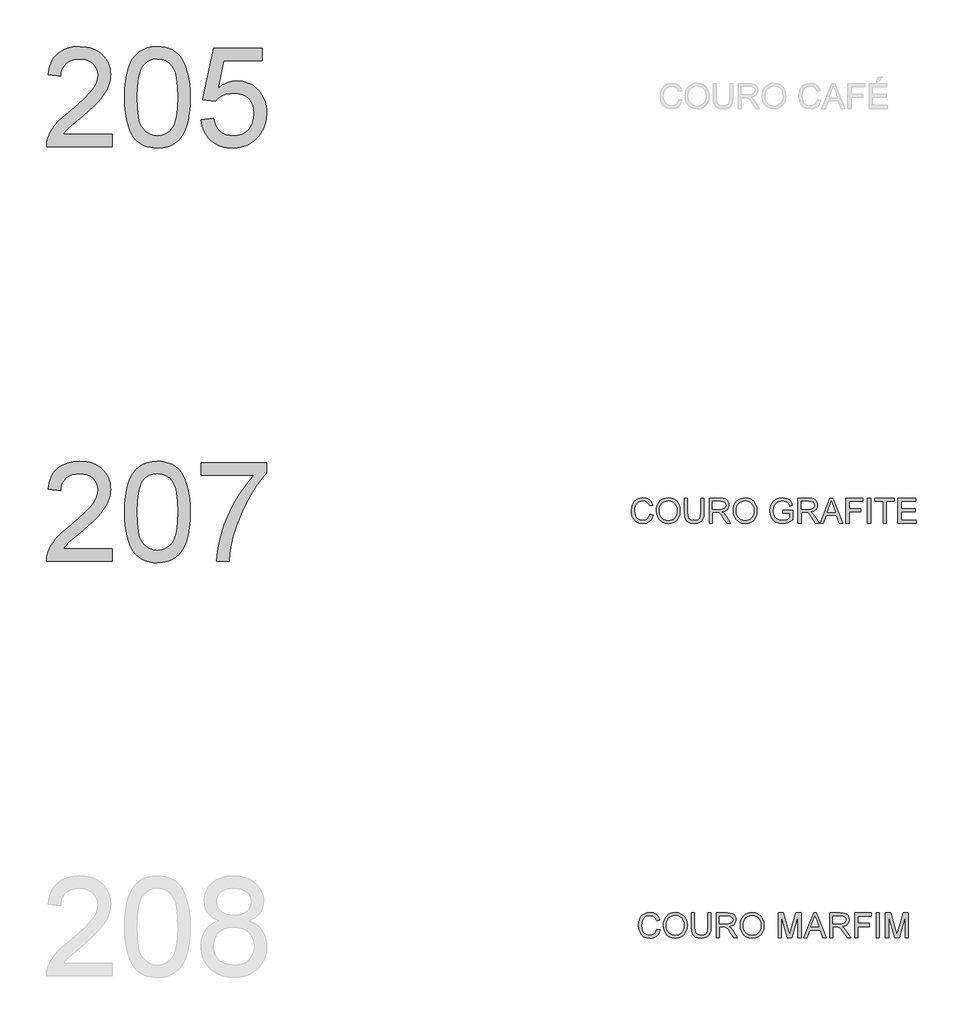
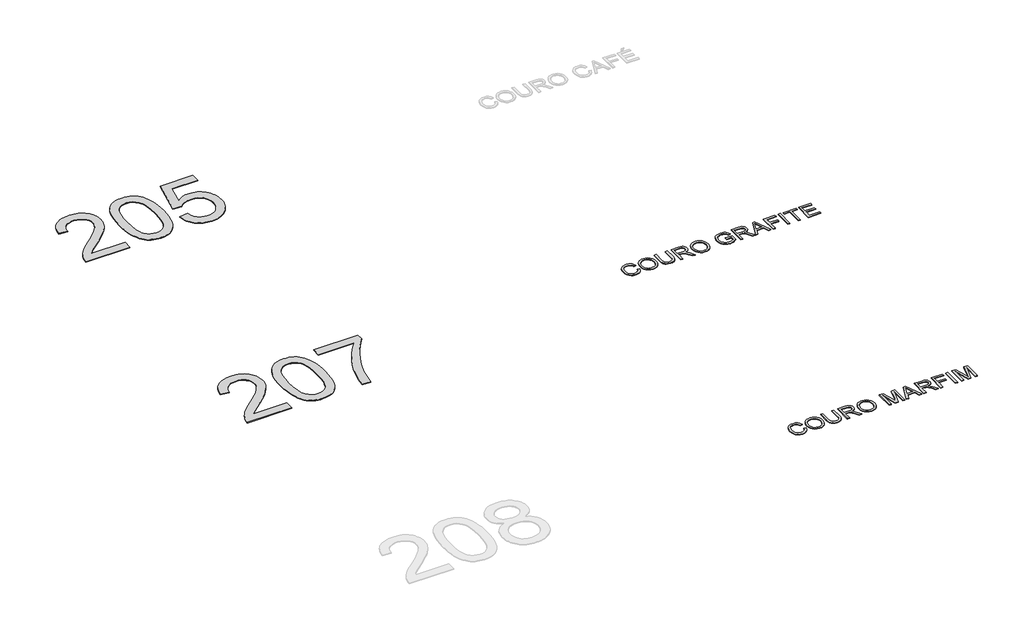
# One storey, part 3 of 35: 4 proxies.
"""IFC4 building model written with IfcOpenShell, lengths in millimetres."""

from ifc_helpers import new_model, si_unit, origin, origin_with_axes, place, context, project, spatial, polyline, outline, extrude, element, save

model = new_model("IFC4")

# Units and contexts
model_context = context("Model", 3, world=origin())
ifc_project = project(units=[si_unit("LENGTHUNIT", "METRE", prefix="MILLI")], contexts=[model_context])

# Site, building, storey
site = spatial("IfcSite", under=ifc_project)
building = spatial("IfcBuilding", under=site)
storey = spatial("IfcBuildingStorey", under=building, Name="Marelli - Linha YOU - Planta Baixa", Elevation=0.0)

# Proxies
placement = place(None, origin())
element("IfcBuildingElementProxy", 1, Name="1200mm Arial", ObjectType="1200mm Arial", at=placement, inside=storey, context=model_context, shape_type="SweptSolid", body=[
    extrude(outline(polyline([(-24408.8734949, -130338.133975), (-24408.8734949, -130488.8184403), (-25199.9669374, -130488.8184403), (-25196.6559994, -130435.7698566), (-25183.7801296, -130384.9285648), (-25167.3541985, -130344.029284), (-25146.6240481, -130303.7370085), (-25121.5896783, -130264.0517383), (-25092.2510892, -130224.9734733), (-25056.8424471, -130184.9755034), (-25013.5979186, -130142.5311182), (-24903.601202, -130050.303102), (-24814.169089, -129973.3605827), (-24740.9973602, -129905.8726307), (-24684.0860155, -129847.839246), (-24643.4350551, -129799.2604285), (-24614.9793827, -129755.7032003), (-24594.6539025, -129712.7345832), (-24582.4586144, -129670.3545774), (-24578.3935183, -129628.5631827), (-24582.2286881, -129589.2457945), (-24593.7341975, -129553.1105855), (-24612.9100465, -129520.1575558), (-24639.7562351, -129490.3867054), (-24672.7828412, -129465.7294146), (-24710.4999428, -129448.1170641), (-24752.9075398, -129437.5496538), (-24800.0056322, -129434.0271837), (-24849.6237163, -129437.4668804), (-24893.999482, -129447.7859703), (-24933.1329292, -129464.9844536), (-24967.024058, -129489.0623302), (-24994.4404637, -129519.2102597), (-25014.1497416, -129554.6189017), (-25026.1518917, -129595.2882563), (-25030.446914, -129641.2183234), (-25181.1313792, -129622.3827652), (-25168.1727359, -129544.5941173), (-25157.7133909, -129509.3832119), (-25144.6006971, -129476.6279187), (-25128.8346543, -129446.3282379), (-25110.4152627, -129418.4841694), (-25089.3425221, -129393.0957132), (-25065.6164327, -129370.1628693), (-25039.4945118, -129349.8143965), (-25011.2342768, -129332.1790533), (-24980.8357277, -129317.2568399), (-24948.2988645, -129305.0477562), (-24876.8101957, -129288.7689779), (-24796.7682706, -129283.3427185), (-24716.0089757, -129289.3759832), (-24678.9609595, -129296.9175641), (-24644.1340308, -129307.4757774), (-24611.5281898, -129321.050623), (-24581.1434362, -129337.642101), (-24552.9797702, -129357.2502113), (-24527.0371918, -129379.874954), (-24503.7571593, -129404.7345798), (-24483.5811311, -129431.0473395), (-24466.5091073, -129458.8132331), (-24452.5410878, -129488.0322606), (-24441.6770726, -129518.7044219), (-24433.9170618, -129550.8297172), (-24429.2610552, -129584.4081463), (-24427.7090531, -129619.4397093), (-24429.3829162, -129655.6301005), (-24434.4045054, -129691.5077921), (-24442.7738208, -129727.072784), (-24454.4908623, -129762.3250762), (-24470.098256, -129797.880871), (-24490.1386277, -129834.3563708), (-24543.5183052, -129910.0664855), (-24580.3524899, -129952.0510182), (-24628.6094106, -130000.4550917), (-24759.3914599, -130116.5218611), (-24932.7374561, -130261.4673672), (-24970.334996, -130299.6903065), (-25000.7220488, -130338.133975), (-24408.8734949, -130338.133975)])), origin_with_axes(), (0.0, 0.0, 1.0), 10.0),
    extrude(outline(polyline([(-24258.1890297, -129895.792664), (-24255.4207177, -129794.4319773), (-24247.1157816, -129702.8385576), (-24233.2742216, -129621.0124048), (-24213.8960375, -129548.953519), (-24189.0640028, -129486.073289), (-24158.860891, -129431.7831035), (-24123.2867021, -129386.0829627), (-24082.341436, -129348.9728664), (-24035.8871371, -129320.2596767), (-23983.7858495, -129299.7502555), (-23926.0375733, -129287.4446027), (-23862.6423085, -129283.3427185), (-23815.0015901, -129285.7707396), (-23769.7888929, -129293.0548031), (-23727.0042169, -129305.194909), (-23686.647562, -129322.1910572), (-23649.6938156, -129343.7581391), (-23617.1178649, -129369.6110463), (-23588.91971, -129399.7497788), (-23565.0993508, -129434.1743365), (-23544.4611709, -129472.7467637), (-23525.8095537, -129515.3291046), (-23494.4660077, -129612.5235278), (-23482.4914488, -129669.6831928), (-23473.9381924, -129735.9479371), (-23468.8062386, -129811.3177609), (-23467.0955873, -129895.792664), (-23469.8363081, -129996.5095573), (-23478.0584707, -130087.6431245), (-23491.7620751, -130169.1933658), (-23510.9471211, -130241.1602811), (-23535.5860177, -130304.0681023), (-23565.6511738, -130358.4410612), (-23601.1425893, -130404.2791578), (-23642.0602642, -130441.5823921), (-23688.5697454, -130470.4887199), (-23740.8365799, -130491.1360968), (-23798.8607676, -130503.524523), (-23862.6423085, -130507.6539984), (-23905.3166199, -130505.8605737), (-23945.6364866, -130500.4802995), (-23983.6019085, -130491.5131759), (-24019.2128856, -130478.9592028), (-24052.469418, -130462.8183803), (-24083.3715056, -130443.0907083), (-24111.9191484, -130419.7761868), (-24138.1123465, -130392.8748159), (-24166.2553191, -130350.2786794), (-24190.6458954, -130302.0999336), (-24211.2840753, -130248.3385785), (-24228.1698589, -130188.9946142), (-24241.3032461, -130124.0680406), (-24250.684237, -130053.5588577), (-24256.3128315, -129977.4670655), (-24258.1890297, -129895.792664)]), holes=[polyline([(-24107.5045645, -129895.4983584), (-24103.0899805, -130026.4919399), (-24089.8462287, -130132.5247279), (-24079.9134148, -130176.1808245), (-24067.773309, -130213.5967226), (-24053.4259112, -130244.7724225), (-24036.8712214, -130269.7079239), (-23999.4944107, -130307.884878), (-23957.9973216, -130335.1541309), (-23912.3799542, -130351.5156826), (-23862.6423085, -130356.9695332), (-23812.9046627, -130351.4972885), (-23767.2872953, -130335.0805545), (-23725.7902063, -130307.7193311), (-23688.4133956, -130269.4136183), (-23671.8587058, -130244.418336), (-23657.511308, -130213.2104465), (-23645.3712021, -130175.7899498), (-23635.4383883, -130132.1568459), (-23622.1946364, -130026.2528166), (-23617.7800525, -129895.4983584), (-23622.0474836, -129767.9720648), (-23634.8497771, -129663.8062779), (-23644.4514972, -129620.4835744), (-23656.1869328, -129583.0009976), (-23670.056084, -129551.3585475), (-23686.0589508, -129525.5562241), (-23722.8103621, -129485.5122689), (-23764.7856978, -129456.9094438), (-23811.9849578, -129439.7477487), (-23864.4081421, -129434.0271837), (-23913.8882704, -129439.067167), (-23958.7330856, -129454.187117), (-23998.9425877, -129479.3870337), (-24034.5167766, -129514.666917), (-24051.6232894, -129543.2145599), (-24066.4489338, -129577.2068562), (-24078.9937099, -129616.6438061), (-24089.2576175, -129661.5254095), (-24102.9428277, -129767.6225769), (-24107.5045645, -129895.4983584)])]), origin_with_axes(), (0.0, 0.0, 1.0), 10.0),
    extrude(outline(polyline([(-23335.2466802, -130168.6139517), (-23184.562215, -130149.7783935), (-23173.3050259, -130198.2192552), (-23156.8974889, -130240.2405761), (-23135.339604, -130275.8423562), (-23108.6313712, -130305.0245955), (-23076.8279727, -130327.7505057), (-23039.9845909, -130343.9832988), (-22998.1012257, -130353.7229746), (-22951.1778772, -130356.9695332), (-22893.788286, -130352.4537817), (-22843.1677235, -130338.9065272), (-22799.3161896, -130316.3277698), (-22762.2336845, -130284.7175093), (-22732.7479426, -130245.6392444), (-22711.6866984, -130200.6564734), (-22699.0499518, -130149.7691965), (-22694.837703, -130092.9774135), (-22698.7832374, -130039.3034304), (-22710.6198406, -129991.5891356), (-22730.3475126, -129949.8345291), (-22757.9662534, -129914.039611), (-22793.5680335, -129885.3264213), (-22837.2448233, -129864.817), (-22888.996623, -129852.5113473), (-22948.8234325, -129848.4094631), (-22987.1107511, -129850.0465379), (-23021.9215849, -129854.9577626), (-23053.2559339, -129863.143137), (-23081.1137979, -129874.6026611), (-23128.3866343, -129904.6954083), (-23165.7266568, -129942.5872538), (-23316.4111221, -129923.7516957), (-23184.562215, -129302.1782766), (-22600.6599122, -129302.1782766), (-22600.6599122, -129452.8627418), (-23062.7196982, -129452.8627418), (-23127.1726237, -129784.8394543), (-23073.9952813, -129746.7268796), (-23019.5303519, -129719.503612), (-22963.7778356, -129703.1696514), (-22906.7377322, -129697.7249978), (-22869.2988414, -129699.4126565), (-22833.3544712, -129704.4756324), (-22798.9046216, -129712.9139257), (-22765.9492927, -129724.7275363), (-22734.4884843, -129739.9164642), (-22704.5221965, -129758.4807093), (-22676.0504294, -129780.4202718), (-22649.0731828, -129805.7351516), (-22624.4825707, -129833.7033803), (-22603.1707069, -129863.6029895), (-22585.1375913, -129895.4339791), (-22570.383224, -129929.1963492), (-22558.907605, -129964.8900998), (-22550.7107343, -130002.5152308), (-22545.7926119, -130042.0717424), (-22544.1532378, -130083.5596344), (-22550.0577438, -130161.6241938), (-22557.4383763, -130198.6147284), (-22567.7712619, -130234.2440996), (-22581.0564004, -130268.5123075), (-22597.293792, -130301.4193519), (-22616.4834366, -130332.965233), (-22638.6253341, -130363.1499507), (-22668.6261108, -130397.0180869), (-22701.2388497, -130426.3704716), (-22736.4635508, -130451.2071048), (-22774.300214, -130471.5279865), (-22814.7488393, -130487.3331167), (-22857.8094269, -130498.6224954), (-22903.4819766, -130505.3961227), (-22951.7664884, -130507.6539984), (-23029.5275452, -130501.8506599), (-23065.5868785, -130494.5964869), (-23099.7654151, -130484.4406445), (-23132.063155, -130471.383133), (-23162.4800982, -130455.4239522), (-23191.0162447, -130436.5631021), (-23217.6715945, -130414.8005828), (-23242.0092878, -130390.6422321), (-23263.5924646, -130364.5938875), (-23282.421125, -130336.6555493), (-23298.4952689, -130306.8272173), (-23311.8148964, -130275.1088915), (-23322.3800074, -130241.500572), (-23335.2466802, -130168.6139517)])), origin_with_axes(), (0.0, 0.0, 1.0), 10.0),
])
element("IfcBuildingElementProxy", 2, Name="1200mm Arial", ObjectType="1200mm Arial", at=placement, inside=storey, context=model_context, shape_type="SweptSolid", body=[
    extrude(outline(polyline([(-24408.8734949, -135338.133975), (-24408.8734949, -135488.8184403), (-25199.9669374, -135488.8184403), (-25196.6559994, -135435.7698566), (-25183.7801296, -135384.9285648), (-25167.3541985, -135344.029284), (-25146.6240481, -135303.7370085), (-25121.5896783, -135264.0517383), (-25092.2510892, -135224.9734733), (-25056.8424471, -135184.9755034), (-25013.5979186, -135142.5311182), (-24903.601202, -135050.303102), (-24814.169089, -134973.3605827), (-24740.9973602, -134905.8726307), (-24684.0860155, -134847.839246), (-24643.4350551, -134799.2604285), (-24614.9793827, -134755.7032003), (-24594.6539025, -134712.7345832), (-24582.4586144, -134670.3545774), (-24578.3935183, -134628.5631827), (-24582.2286881, -134589.2457945), (-24593.7341975, -134553.1105855), (-24612.9100465, -134520.1575558), (-24639.7562351, -134490.3867054), (-24672.7828412, -134465.7294146), (-24710.4999428, -134448.1170641), (-24752.9075398, -134437.5496538), (-24800.0056322, -134434.0271837), (-24849.6237163, -134437.4668804), (-24893.999482, -134447.7859703), (-24933.1329292, -134464.9844536), (-24967.024058, -134489.0623302), (-24994.4404637, -134519.2102597), (-25014.1497416, -134554.6189017), (-25026.1518917, -134595.2882563), (-25030.446914, -134641.2183234), (-25181.1313792, -134622.3827652), (-25168.1727359, -134544.5941173), (-25157.7133909, -134509.3832119), (-25144.6006971, -134476.6279187), (-25128.8346543, -134446.3282379), (-25110.4152627, -134418.4841694), (-25089.3425221, -134393.0957132), (-25065.6164327, -134370.1628693), (-25039.4945118, -134349.8143965), (-25011.2342768, -134332.1790533), (-24980.8357277, -134317.2568399), (-24948.2988645, -134305.0477562), (-24876.8101957, -134288.7689779), (-24796.7682706, -134283.3427185), (-24716.0089757, -134289.3759832), (-24678.9609595, -134296.9175641), (-24644.1340308, -134307.4757774), (-24611.5281898, -134321.050623), (-24581.1434362, -134337.642101), (-24552.9797702, -134357.2502113), (-24527.0371918, -134379.874954), (-24503.7571593, -134404.7345798), (-24483.5811311, -134431.0473395), (-24466.5091073, -134458.8132331), (-24452.5410878, -134488.0322606), (-24441.6770726, -134518.7044219), (-24433.9170618, -134550.8297172), (-24429.2610552, -134584.4081463), (-24427.7090531, -134619.4397093), (-24429.3829162, -134655.6301005), (-24434.4045054, -134691.5077921), (-24442.7738208, -134727.072784), (-24454.4908623, -134762.3250762), (-24470.098256, -134797.880871), (-24490.1386277, -134834.3563708), (-24543.5183052, -134910.0664855), (-24580.3524899, -134952.0510182), (-24628.6094106, -135000.4550917), (-24759.3914599, -135116.5218611), (-24932.7374561, -135261.4673672), (-24970.334996, -135299.6903065), (-25000.7220488, -135338.133975), (-24408.8734949, -135338.133975)])), origin_with_axes(), (0.0, 0.0, 1.0), 10.0),
    extrude(outline(polyline([(-24258.1890297, -134895.792664), (-24255.4207177, -134794.4319773), (-24247.1157816, -134702.8385576), (-24233.2742216, -134621.0124048), (-24213.8960375, -134548.953519), (-24189.0640028, -134486.073289), (-24158.860891, -134431.7831035), (-24123.2867021, -134386.0829627), (-24082.341436, -134348.9728664), (-24035.8871371, -134320.2596767), (-23983.7858495, -134299.7502555), (-23926.0375733, -134287.4446027), (-23862.6423085, -134283.3427185), (-23815.0015901, -134285.7707396), (-23769.7888929, -134293.0548031), (-23727.0042169, -134305.194909), (-23686.647562, -134322.1910572), (-23649.6938156, -134343.7581391), (-23617.1178649, -134369.6110463), (-23588.91971, -134399.7497788), (-23565.0993508, -134434.1743365), (-23544.4611709, -134472.7467637), (-23525.8095537, -134515.3291046), (-23494.4660077, -134612.5235278), (-23482.4914488, -134669.6831928), (-23473.9381924, -134735.9479371), (-23468.8062386, -134811.3177609), (-23467.0955873, -134895.792664), (-23469.8363081, -134996.5095573), (-23478.0584707, -135087.6431245), (-23491.7620751, -135169.1933658), (-23510.9471211, -135241.1602811), (-23535.5860177, -135304.0681023), (-23565.6511738, -135358.4410612), (-23601.1425893, -135404.2791578), (-23642.0602642, -135441.5823921), (-23688.5697454, -135470.4887199), (-23740.8365799, -135491.1360968), (-23798.8607676, -135503.524523), (-23862.6423085, -135507.6539984), (-23905.3166199, -135505.8605737), (-23945.6364866, -135500.4802995), (-23983.6019085, -135491.5131759), (-24019.2128856, -135478.9592028), (-24052.469418, -135462.8183803), (-24083.3715056, -135443.0907083), (-24111.9191484, -135419.7761868), (-24138.1123465, -135392.8748159), (-24166.2553191, -135350.2786794), (-24190.6458954, -135302.0999336), (-24211.2840753, -135248.3385785), (-24228.1698589, -135188.9946142), (-24241.3032461, -135124.0680406), (-24250.684237, -135053.5588577), (-24256.3128315, -134977.4670655), (-24258.1890297, -134895.792664)]), holes=[polyline([(-24107.5045645, -134895.4983584), (-24103.0899805, -135026.4919399), (-24089.8462287, -135132.5247279), (-24079.9134148, -135176.1808245), (-24067.773309, -135213.5967226), (-24053.4259112, -135244.7724225), (-24036.8712214, -135269.7079239), (-23999.4944107, -135307.884878), (-23957.9973216, -135335.1541309), (-23912.3799542, -135351.5156826), (-23862.6423085, -135356.9695332), (-23812.9046627, -135351.4972885), (-23767.2872953, -135335.0805545), (-23725.7902063, -135307.7193311), (-23688.4133956, -135269.4136183), (-23671.8587058, -135244.418336), (-23657.511308, -135213.2104465), (-23645.3712021, -135175.7899498), (-23635.4383883, -135132.1568459), (-23622.1946364, -135026.2528166), (-23617.7800525, -134895.4983584), (-23622.0474836, -134767.9720648), (-23634.8497771, -134663.8062779), (-23644.4514972, -134620.4835744), (-23656.1869328, -134583.0009976), (-23670.056084, -134551.3585475), (-23686.0589508, -134525.5562241), (-23722.8103621, -134485.5122689), (-23764.7856978, -134456.9094438), (-23811.9849578, -134439.7477487), (-23864.4081421, -134434.0271837), (-23913.8882704, -134439.067167), (-23958.7330856, -134454.187117), (-23998.9425877, -134479.3870337), (-24034.5167766, -134514.666917), (-24051.6232894, -134543.2145599), (-24066.4489338, -134577.2068562), (-24078.9937099, -134616.6438061), (-24089.2576175, -134661.5254095), (-24102.9428277, -134767.6225769), (-24107.5045645, -134895.4983584)])]), origin_with_axes(), (0.0, 0.0, 1.0), 10.0),
    extrude(outline(polyline([(-23335.2466802, -134452.8627418), (-23335.2466802, -134302.1782766), (-22544.1532378, -134302.1782766), (-22544.1532378, -134424.0207934), (-22600.6691093, -134490.5246611), (-22656.9090693, -134566.7222194), (-22712.8731178, -134652.6134682), (-22768.5612548, -134748.1984076), (-22820.956848, -134849.3383651), (-22867.0432649, -134951.8946683), (-22906.8205057, -135055.8673172), (-22940.2885702, -135161.2563118), (-22960.2277743, -135237.7941609), (-22976.1938529, -135317.9004653), (-22988.186806, -135401.5752251), (-22996.2066335, -135488.8184403), (-23146.8910987, -135488.8184403), (-23142.154618, -135414.8189769), (-23130.5939263, -135333.4986619), (-23112.2090236, -135244.8574952), (-23086.9999099, -135148.8954767), (-23055.2608907, -135050.1651463), (-23017.2862718, -134953.2190435), (-22973.076053, -134858.0571684), (-22922.6302344, -134764.679521), (-22868.2204873, -134675.8268221), (-22812.1184831, -134594.2397926), (-22754.3242216, -134519.9184325), (-22694.837703, -134452.8627418), (-23335.2466802, -134452.8627418)])), origin_with_axes(), (0.0, 0.0, 1.0), 10.0),
])
element("IfcBuildingElementProxy", 3, Name="300mm Arial", ObjectType="300mm Arial", at=placement, inside=storey, context=model_context, shape_type="SweptSolid", body=[
    extrude(outline(polyline([(-17918.9303009, -134923.4390831), (-17881.2591846, -134933.1511677), (-17888.7133935, -134956.5783531), (-17898.6416089, -134977.0486868), (-17911.0438306, -134994.5621691), (-17925.9200588, -135009.1187998), (-17942.9346011, -135020.5622291), (-17961.7517651, -135028.7361071), (-17982.371551, -135033.640434), (-18004.7939586, -135035.2752096), (-18048.4891425, -135030.3271968), (-18083.1896117, -135015.4831583), (-18109.78748, -134991.2581289), (-18129.1748611, -134958.1671434), (-18141.0114643, -134919.2636224), (-18144.9569987, -134877.6009865), (-18140.4964295, -134833.6574822), (-18127.114722, -134795.7104543), (-18105.5108518, -134764.9647166), (-18076.3837948, -134742.6250824), (-18041.8396755, -134729.0226457), (-18003.9846182, -134724.4885001), (-17962.6806672, -134730.3562179), (-17944.711931, -134737.6908652), (-17928.532021, -134747.9593714), (-17914.4076516, -134760.8904235), (-17902.6055374, -134776.2127086), (-17885.9680741, -134814.0309777), (-17923.6391904, -134823.0072984), (-17936.6990013, -134795.5357104), (-17954.541278, -134776.6909552), (-17977.3867499, -134765.7924511), (-18005.4561462, -134762.1596164), (-18037.8113676, -134766.1879242), (-18064.3908418, -134778.2728478), (-18084.5599722, -134797.1451941), (-18097.6841623, -134821.5357704), (-18104.8854524, -134849.1085259), (-18107.2858824, -134877.5274101), (-18104.443994, -134912.3290468), (-18095.9183288, -134942.421794), (-18081.38699, -134966.6560205), (-18060.5280808, -134983.8820949), (-18035.5213022, -134994.1735937), (-18008.5463549, -134997.6040933), (-17977.1016414, -134992.931992), (-17950.8992463, -134978.9156879), (-17931.116392, -134955.7023341), (-17918.9303009, -134923.4390831)])), origin_with_axes(), (0.0, 0.0, 1.0), 10.0),
    extrude(outline(polyline([(-17843.5880683, -134883.8549804), (-17841.0772737, -134848.5061192), (-17833.5448898, -134817.213157), (-17820.9909167, -134789.9760937), (-17803.4153544, -134766.7949295), (-17781.8712651, -134748.2858666), (-17757.4117109, -134735.0651074), (-17730.0366919, -134727.1326519), (-17699.7462082, -134724.4885001), (-17660.2172878, -134729.454907), (-17624.7718575, -134744.3541278), (-17595.3412979, -134768.1376988), (-17573.8569894, -134799.7571563), (-17560.7236022, -134837.68579), (-17556.3458064, -134880.3968896), (-17560.9535284, -134923.6782064), (-17574.7766944, -134962.140269), (-17597.0519492, -134993.8149088), (-17627.0159377, -135016.7339571), (-17662.1578653, -135030.6398965), (-17699.9669374, -135035.2752096), (-17740.102863, -135030.1524528), (-17775.7506284, -135014.7841825), (-17805.1076116, -134990.5591531), (-17826.3711909, -134958.8661192), (-17839.2838489, -134922.3998164), (-17843.5880683, -134883.8549804)]), holes=[polyline([(-17805.916952, -134884.2228624), (-17804.033856, -134909.1974513), (-17798.3845681, -134931.3669401), (-17788.9690883, -134950.7313286), (-17775.7874166, -134967.2906169), (-17759.7638564, -134980.5527628), (-17741.8227114, -134990.0257242), (-17721.9639814, -134995.709501), (-17700.1876666, -134997.6040933), (-17678.0388712, -134995.6911069), (-17657.9456165, -134989.9521478), (-17639.9079024, -134980.3872159), (-17623.925729, -134966.9963113), (-17610.8406262, -134950.0875351), (-17601.4941243, -134929.9689885), (-17595.8862231, -134906.6406715), (-17594.0169227, -134880.102584), (-17597.2174961, -134846.7540812), (-17606.8192162, -134817.9305269), (-17622.5737626, -134794.358488), (-17644.2328151, -134776.7645316), (-17670.3616338, -134765.8108452), (-17699.525479, -134762.1596164), (-17720.5453365, -134763.9185522), (-17740.0476807, -134769.1953595), (-17758.0325118, -134777.9900385), (-17774.4998296, -134790.302589), (-17788.2448206, -134806.7262208), (-17798.0626714, -134827.8541437), (-17803.9533818, -134853.6863575), (-17805.916952, -134884.2228624)])]), origin_with_axes(), (0.0, 0.0, 1.0), 10.0),
    extrude(outline(polyline([(-17306.7746609, -134729.1973896), (-17269.1035446, -134729.1973896), (-17269.1035446, -134903.0584205), (-17271.6603245, -134943.7737604), (-17279.3306641, -134975.1265034), (-17293.6596678, -134999.3147446), (-17316.19244, -135018.5365788), (-17346.984163, -135031.0905519), (-17386.0900191, -135035.2752096), (-17424.3405495, -135031.6331779), (-17454.9207404, -135020.7070826), (-17477.8397887, -135002.8740029), (-17493.1068915, -134978.5110178), (-17501.687739, -134945.8338995), (-17504.5480215, -134903.0584205), (-17504.5480215, -134729.1973896), (-17466.8769052, -134729.1973896), (-17466.8769052, -134901.7340454), (-17465.0191011, -134935.588386), (-17459.4456889, -134959.1604248), (-17449.3473281, -134975.4851883), (-17433.9146784, -134987.597703), (-17413.7915333, -134995.1024957), (-17389.6216862, -134997.6040933), (-17351.3067764, -134992.6560805), (-17336.9639771, -134986.4710644), (-17325.8309483, -134977.812042), (-17317.4938225, -134965.6351479), (-17311.5387327, -134948.8965171), (-17306.7746609, -134901.7340454), (-17306.7746609, -134729.1973896)])), origin_with_axes(), (0.0, 0.0, 1.0), 10.0),
    extrude(outline(polyline([(-17203.1790911, -135030.5663201), (-17203.1790911, -134729.1973896), (-17073.3167468, -134729.1973896), (-17038.4139425, -134731.2299376), (-17013.0208878, -134737.3275817), (-16994.4612411, -134748.5847708), (-16980.058661, -134766.0959537), (-16970.8156259, -134787.8101885), (-16967.7346142, -134811.6765329), (-16972.8389768, -134841.3646099), (-16988.1520649, -134865.9759154), (-16999.7518441, -134876.0052983), (-17014.1337308, -134884.0205273), (-17051.2438271, -134894.0085235), (-17029.8330949, -134910.1217548), (-16999.2988893, -134948.8965171), (-16949.0462088, -135030.5663201), (-16992.8241662, -135030.5663201), (-17032.0403869, -134968.0999573), (-17060.3673005, -134926.750021), (-17080.2697165, -134907.2154871), (-17098.1855696, -134900.0417882), (-17120.0377602, -134898.717413), (-17165.5079748, -134898.717413), (-17165.5079748, -135030.5663201), (-17203.1790911, -135030.5663201)]), holes=[polyline([(-17165.5079748, -134861.0462967), (-17081.1894215, -134861.0462967), (-17056.9735891, -134859.7127245), (-17038.1840162, -134855.7120078), (-17024.0389535, -134848.7774322), (-17013.7566518, -134838.6422832), (-17007.4934608, -134826.3826157), (-17005.4057305, -134813.0744845), (-17009.3880531, -134794.6987789), (-17021.3350209, -134779.8915286), (-17041.8904273, -134770.1242616), (-17071.698066, -134766.8685059), (-17165.5079748, -134766.8685059), (-17165.5079748, -134861.0462967)])]), origin_with_axes(), (0.0, 0.0, 1.0), 10.0),
    extrude(outline(polyline([(-16915.9368292, -134883.8549804), (-16913.4260346, -134848.5061192), (-16905.8936508, -134817.213157), (-16893.3396777, -134789.9760937), (-16875.7641154, -134766.7949295), (-16854.220026, -134748.2858666), (-16829.7604719, -134735.0651074), (-16802.3854529, -134727.1326519), (-16772.0949691, -134724.4885001), (-16732.5660487, -134729.454907), (-16697.1206185, -134744.3541278), (-16667.6900589, -134768.1376988), (-16646.2057504, -134799.7571563), (-16633.0723631, -134837.68579), (-16628.6945674, -134880.3968896), (-16633.3022894, -134923.6782064), (-16647.1254554, -134962.140269), (-16669.4007102, -134993.8149088), (-16699.3646987, -135016.7339571), (-16734.5066263, -135030.6398965), (-16772.3156983, -135035.2752096), (-16812.451624, -135030.1524528), (-16848.0993893, -135014.7841825), (-16877.4563725, -134990.5591531), (-16898.7199519, -134958.8661192), (-16911.6326099, -134922.3998164), (-16915.9368292, -134883.8549804)]), holes=[polyline([(-16878.2657129, -134884.2228624), (-16876.382617, -134909.1974513), (-16870.7333291, -134931.3669401), (-16861.3178493, -134950.7313286), (-16848.1361775, -134967.2906169), (-16832.1126174, -134980.5527628), (-16814.1714723, -134990.0257242), (-16794.3127424, -134995.709501), (-16772.5364275, -134997.6040933), (-16750.3876321, -134995.6911069), (-16730.2943774, -134989.9521478), (-16712.2566633, -134980.3872159), (-16696.2744899, -134966.9963113), (-16683.1893872, -134950.0875351), (-16673.8428853, -134929.9689885), (-16668.2349841, -134906.6406715), (-16666.3656837, -134880.102584), (-16669.5662571, -134846.7540812), (-16679.1679771, -134817.9305269), (-16694.9225236, -134794.358488), (-16716.5815761, -134776.7645316), (-16742.7103948, -134765.8108452), (-16771.8742399, -134762.1596164), (-16792.8940974, -134763.9185522), (-16812.3964417, -134769.1953595), (-16830.3812727, -134777.9900385), (-16846.8485905, -134790.302589), (-16860.5935816, -134806.7262208), (-16870.4114323, -134827.8541437), (-16876.3021428, -134853.6863575), (-16878.2657129, -134884.2228624)])]), origin_with_axes(), (0.0, 0.0, 1.0), 10.0),
    extrude(outline(polyline([(-16317.9078579, -134912.8440816), (-16317.9078579, -134875.1729653), (-16195.4767299, -134875.1729653), (-16195.4767299, -134987.8184322), (-16225.2291862, -135008.5117945), (-16255.9197417, -135023.355833), (-16287.4748198, -135032.2953654), (-16319.8208443, -135035.2752096), (-16362.0812884, -135030.5387289), (-16400.2766366, -135016.3292869), (-16432.0064587, -134993.1435241), (-16454.8703247, -134961.4780814), (-16468.6934907, -134923.4942654), (-16473.3012126, -134881.3533828), (-16468.7118847, -134838.9089976), (-16454.9439011, -134799.4260625), (-16432.5674787, -134766.3074859), (-16402.1528348, -134742.9561762), (-16365.1071179, -134729.1054191), (-16322.8374766, -134724.4885001), (-16291.8066303, -134727.1648416), (-16263.902781, -134735.1938661), (-16240.4043185, -134747.9961596), (-16222.5896329, -134764.9923078), (-16209.4102604, -134787.0008481), (-16199.8177374, -134814.8403181), (-16234.5457978, -134824.6259792), (-16242.2989108, -134804.7695485), (-16251.7258869, -134789.7875542), (-16264.1970866, -134778.493577), (-16281.0828702, -134769.7011973), (-16301.2152123, -134764.0450116), (-16323.4260878, -134762.1596164), (-16349.4261478, -134764.1921644), (-16371.6554174, -134770.2898085), (-16390.031123, -134779.6891935), (-16404.4704913, -134791.6269642), (-16423.8578725, -134820.6528536), (-16432.6870404, -134849.0901318), (-16435.6300963, -134879.8082784), (-16432.0892321, -134915.8331228), (-16421.4666395, -134945.4752146), (-16404.0842152, -134968.5230216), (-16380.2638561, -134984.7650117), (-16352.3875979, -134994.3943229), (-16322.8374766, -134997.6040933), (-16296.7454461, -134995.1852692), (-16271.2972091, -134987.9287968), (-16249.1966982, -134977.9316036), (-16233.1478462, -134967.2906169), (-16233.1478462, -134912.8440816), (-16317.9078579, -134912.8440816)])), origin_with_axes(), (0.0, 0.0, 1.0), 10.0),
    extrude(outline(polyline([(-16134.2611659, -135030.5663201), (-16134.2611659, -134729.1973896), (-16004.3988216, -134729.1973896), (-15969.4960173, -134731.2299376), (-15944.1029626, -134737.3275817), (-15925.5433159, -134748.5847708), (-15911.1407358, -134766.0959537), (-15901.8977007, -134787.8101885), (-15898.816689, -134811.6765329), (-15903.9210517, -134841.3646099), (-15919.2341397, -134865.9759154), (-15930.8339189, -134876.0052983), (-15945.2158056, -134884.0205273), (-15982.3259019, -134894.0085235), (-15960.9151698, -134910.1217548), (-15930.3809642, -134948.8965171), (-15880.1282836, -135030.5663201), (-15923.906241, -135030.5663201), (-15963.1224617, -134968.0999573), (-15991.4493754, -134926.750021), (-16011.3517913, -134907.2154871), (-16029.2676445, -134900.0417882), (-16051.119835, -134898.717413), (-16096.5900496, -134898.717413), (-16096.5900496, -135030.5663201), (-16134.2611659, -135030.5663201)]), holes=[polyline([(-16096.5900496, -134861.0462967), (-16012.2714963, -134861.0462967), (-15988.055664, -134859.7127245), (-15969.266091, -134855.7120078), (-15955.1210283, -134848.7774322), (-15944.8387266, -134838.6422832), (-15938.5755356, -134826.3826157), (-15936.4878053, -134813.0744845), (-15940.4701279, -134794.6987789), (-15952.4170957, -134779.8915286), (-15972.9725021, -134770.1242616), (-16002.7801408, -134766.8685059), (-16096.5900496, -134766.8685059), (-16096.5900496, -134861.0462967)])]), origin_with_axes(), (0.0, 0.0, 1.0), 10.0),
    extrude(outline(polyline([(-15867.9881778, -135030.5663201), (-15747.6907654, -134729.1973896), (-15715.6114554, -134729.1973896), (-15595.314043, -135030.5663201), (-15635.1188748, -135030.5663201), (-15669.626206, -134936.3885293), (-15793.7495911, -134936.3885293), (-15828.1833459, -135030.5663201), (-15867.9881778, -135030.5663201)]), holes=[polyline([(-15779.9172281, -134898.717413), (-15683.3849926, -134898.717413), (-15710.5346838, -134824.6259792), (-15731.6511104, -134766.8685059), (-15750.4130921, -134818.1512561), (-15779.9172281, -134898.717413)])]), origin_with_axes(), (0.0, 0.0, 1.0), 10.0),
    extrude(outline(polyline([(-15555.0677527, -135030.5663201), (-15555.0677527, -134729.1973896), (-15352.5855025, -134729.1973896), (-15352.5855025, -134766.8685059), (-15517.3966364, -134766.8685059), (-15517.3966364, -134856.3374072), (-15376.1299502, -134856.3374072), (-15376.1299502, -134894.0085235), (-15517.3966364, -134894.0085235), (-15517.3966364, -135030.5663201), (-15555.0677527, -135030.5663201)])), origin_with_axes(), (0.0, 0.0, 1.0), 10.0),
    extrude(outline(polyline([(-15296.0788281, -135030.5663201), (-15296.0788281, -134729.1973896), (-15258.4077118, -134729.1973896), (-15258.4077118, -135030.5663201), (-15296.0788281, -135030.5663201)])), origin_with_axes(), (0.0, 0.0, 1.0), 10.0),
    extrude(outline(polyline([(-15107.7232465, -135030.5663201), (-15107.7232465, -134766.8685059), (-15206.6099268, -134766.8685059), (-15206.6099268, -134729.1973896), (-14971.1654499, -134729.1973896), (-14971.1654499, -134766.8685059), (-15070.0521302, -134766.8685059), (-15070.0521302, -135030.5663201), (-15107.7232465, -135030.5663201)])), origin_with_axes(), (0.0, 0.0, 1.0), 10.0),
    extrude(outline(polyline([(-14928.7854441, -135030.5663201), (-14928.7854441, -134729.1973896), (-14712.1765253, -134729.1973896), (-14712.1765253, -134766.8685059), (-14891.1143278, -134766.8685059), (-14891.1143278, -134856.3374072), (-14721.5943044, -134856.3374072), (-14721.5943044, -134894.0085235), (-14891.1143278, -134894.0085235), (-14891.1143278, -134992.8952038), (-14707.4676358, -134992.8952038), (-14707.4676358, -135030.5663201), (-14928.7854441, -135030.5663201)])), origin_with_axes(), (0.0, 0.0, 1.0), 10.0),
])
element("IfcBuildingElementProxy", 4, Name="300mm Arial", ObjectType="300mm Arial", at=placement, inside=storey, context=model_context, shape_type="SweptSolid", body=[
    extrude(outline(polyline([(-17834.1702892, -139923.4390831), (-17796.4991729, -139933.1511677), (-17803.9533818, -139956.5783531), (-17813.8815972, -139977.0486868), (-17826.2838189, -139994.5621691), (-17841.1600471, -140009.1187998), (-17858.1745894, -140020.5622291), (-17876.9917534, -140028.7361071), (-17897.6115393, -140033.640434), (-17920.0339469, -140035.2752096), (-17963.7291308, -140030.3271968), (-17998.4296, -140015.4831583), (-18025.0274683, -139991.2581289), (-18044.4148494, -139958.1671434), (-18056.2514526, -139919.2636224), (-18060.196987, -139877.6009865), (-18055.7364178, -139833.6574822), (-18042.3547103, -139795.7104543), (-18020.7508401, -139764.9647166), (-17991.6237831, -139742.6250824), (-17957.0796638, -139729.0226457), (-17919.2246065, -139724.4885001), (-17877.9206555, -139730.3562179), (-17859.9519193, -139737.6908652), (-17843.7720093, -139747.9593714), (-17829.6476399, -139760.8904235), (-17817.8455257, -139776.2127086), (-17801.2080624, -139814.0309777), (-17838.8791787, -139823.0072984), (-17851.9389896, -139795.5357104), (-17869.7812663, -139776.6909552), (-17892.6267382, -139765.7924511), (-17920.6961345, -139762.1596164), (-17953.0513559, -139766.1879242), (-17979.6308301, -139778.2728478), (-17999.7999605, -139797.1451941), (-18012.9241507, -139821.5357704), (-18020.1254407, -139849.1085259), (-18022.5258707, -139877.5274101), (-18019.6839823, -139912.3290468), (-18011.1583171, -139942.421794), (-17996.6269783, -139966.6560205), (-17975.7680691, -139983.8820949), (-17950.7612905, -139994.1735937), (-17923.7863432, -139997.6040933), (-17892.3416297, -139992.931992), (-17866.1392346, -139978.9156879), (-17846.3563803, -139955.7023341), (-17834.1702892, -139923.4390831)])), origin_with_axes(), (0.0, 0.0, 1.0), 10.0),
    extrude(outline(polyline([(-17758.8280566, -139883.8549804), (-17756.317262, -139848.5061192), (-17748.7848781, -139817.213157), (-17736.230905, -139789.9760937), (-17718.6553427, -139766.7949295), (-17697.1112534, -139748.2858666), (-17672.6516992, -139735.0651074), (-17645.2766802, -139727.1326519), (-17614.9861965, -139724.4885001), (-17575.4572761, -139729.454907), (-17540.0118459, -139744.3541278), (-17510.5812862, -139768.1376988), (-17489.0969777, -139799.7571563), (-17475.9635905, -139837.68579), (-17471.5857948, -139880.3968896), (-17476.1935167, -139923.6782064), (-17490.0166827, -139962.140269), (-17512.2919375, -139993.8149088), (-17542.255926, -140016.7339571), (-17577.3978536, -140030.6398965), (-17615.2069257, -140035.2752096), (-17655.3428513, -140030.1524528), (-17690.9906167, -140014.7841825), (-17720.3475999, -139990.5591531), (-17741.6111792, -139958.8661192), (-17754.5238372, -139922.3998164), (-17758.8280566, -139883.8549804)]), holes=[polyline([(-17721.1569403, -139884.2228624), (-17719.2738443, -139909.1974513), (-17713.6245564, -139931.3669401), (-17704.2090766, -139950.7313286), (-17691.0274049, -139967.2906169), (-17675.0038447, -139980.5527628), (-17657.0626997, -139990.0257242), (-17637.2039697, -139995.709501), (-17615.4276549, -139997.6040933), (-17593.2788595, -139995.6911069), (-17573.1856048, -139989.9521478), (-17555.1478907, -139980.3872159), (-17539.1657173, -139966.9963113), (-17526.0806145, -139950.0875351), (-17516.7341126, -139929.9689885), (-17511.1262114, -139906.6406715), (-17509.2569111, -139880.102584), (-17512.4574844, -139846.7540812), (-17522.0592045, -139817.9305269), (-17537.8137509, -139794.358488), (-17559.4728034, -139776.7645316), (-17585.6016221, -139765.8108452), (-17614.7654673, -139762.1596164), (-17635.7853248, -139763.9185522), (-17655.287669, -139769.1953595), (-17673.2725001, -139777.9900385), (-17689.7398179, -139790.302589), (-17703.4848089, -139806.7262208), (-17713.3026597, -139827.8541437), (-17719.1933701, -139853.6863575), (-17721.1569403, -139884.2228624)])]), origin_with_axes(), (0.0, 0.0, 1.0), 10.0),
    extrude(outline(polyline([(-17222.0146492, -139729.1973896), (-17184.3435329, -139729.1973896), (-17184.3435329, -139903.0584205), (-17186.9003128, -139943.7737604), (-17194.5706524, -139975.1265034), (-17208.8996561, -139999.3147446), (-17231.4324283, -140018.5365788), (-17262.2241513, -140031.0905519), (-17301.3300074, -140035.2752096), (-17339.5805378, -140031.6331779), (-17370.1607287, -140020.7070826), (-17393.079777, -140002.8740029), (-17408.3468798, -139978.5110178), (-17416.9277273, -139945.8338995), (-17419.7880098, -139903.0584205), (-17419.7880098, -139729.1973896), (-17382.1168935, -139729.1973896), (-17382.1168935, -139901.7340454), (-17380.2590894, -139935.588386), (-17374.6856772, -139959.1604248), (-17364.5873165, -139975.4851883), (-17349.1546668, -139987.597703), (-17329.0315216, -139995.1024957), (-17304.8616745, -139997.6040933), (-17266.5467647, -139992.6560805), (-17252.2039655, -139986.4710644), (-17241.0709366, -139977.812042), (-17232.7338109, -139965.6351479), (-17226.7787211, -139948.8965171), (-17222.0146492, -139901.7340454), (-17222.0146492, -139729.1973896)])), origin_with_axes(), (0.0, 0.0, 1.0), 10.0),
    extrude(outline(polyline([(-17118.4190794, -140030.5663201), (-17118.4190794, -139729.1973896), (-16988.5567351, -139729.1973896), (-16953.6539308, -139731.2299376), (-16928.2608761, -139737.3275817), (-16909.7012294, -139748.5847708), (-16895.2986493, -139766.0959537), (-16886.0556142, -139787.8101885), (-16882.9746025, -139811.6765329), (-16888.0789652, -139841.3646099), (-16903.3920532, -139865.9759154), (-16914.9918324, -139876.0052983), (-16929.3737191, -139884.0205273), (-16966.4838154, -139894.0085235), (-16945.0730833, -139910.1217548), (-16914.5388777, -139948.8965171), (-16864.2861971, -140030.5663201), (-16908.0641545, -140030.5663201), (-16947.2803752, -139968.0999573), (-16975.6072889, -139926.750021), (-16995.5097048, -139907.2154871), (-17013.425558, -139900.0417882), (-17035.2777485, -139898.717413), (-17080.7479631, -139898.717413), (-17080.7479631, -140030.5663201), (-17118.4190794, -140030.5663201)]), holes=[polyline([(-17080.7479631, -139861.0462967), (-16996.4294098, -139861.0462967), (-16972.2135774, -139859.7127245), (-16953.4240045, -139855.7120078), (-16939.2789418, -139848.7774322), (-16928.9966401, -139838.6422832), (-16922.7334491, -139826.3826157), (-16920.6457188, -139813.0744845), (-16924.6280414, -139794.6987789), (-16936.5750092, -139779.8915286), (-16957.1304156, -139770.1242616), (-16986.9380543, -139766.8685059), (-17080.7479631, -139766.8685059), (-17080.7479631, -139861.0462967)])]), origin_with_axes(), (0.0, 0.0, 1.0), 10.0),
    extrude(outline(polyline([(-16831.1768175, -139883.8549804), (-16828.6660229, -139848.5061192), (-16821.1336391, -139817.213157), (-16808.579666, -139789.9760937), (-16791.0041037, -139766.7949295), (-16769.4600143, -139748.2858666), (-16745.0004602, -139735.0651074), (-16717.6254412, -139727.1326519), (-16687.3349574, -139724.4885001), (-16647.8060371, -139729.454907), (-16612.3606068, -139744.3541278), (-16582.9300472, -139768.1376988), (-16561.4457387, -139799.7571563), (-16548.3123515, -139837.68579), (-16543.9345557, -139880.3968896), (-16548.5422777, -139923.6782064), (-16562.3654437, -139962.140269), (-16584.6406985, -139993.8149088), (-16614.604687, -140016.7339571), (-16649.7466146, -140030.6398965), (-16687.5556866, -140035.2752096), (-16727.6916123, -140030.1524528), (-16763.3393776, -140014.7841825), (-16792.6963609, -139990.5591531), (-16813.9599402, -139958.8661192), (-16826.8725982, -139922.3998164), (-16831.1768175, -139883.8549804)]), holes=[polyline([(-16793.5057012, -139884.2228624), (-16791.6226053, -139909.1974513), (-16785.9733174, -139931.3669401), (-16776.5578376, -139950.7313286), (-16763.3761658, -139967.2906169), (-16747.3526057, -139980.5527628), (-16729.4114606, -139990.0257242), (-16709.5527307, -139995.709501), (-16687.7764158, -139997.6040933), (-16665.6276205, -139995.6911069), (-16645.5343657, -139989.9521478), (-16627.4966517, -139980.3872159), (-16611.5144782, -139966.9963113), (-16598.4293755, -139950.0875351), (-16589.0828736, -139929.9689885), (-16583.4749724, -139906.6406715), (-16581.605672, -139880.102584), (-16584.8062454, -139846.7540812), (-16594.4079655, -139817.9305269), (-16610.1625119, -139794.358488), (-16631.8215644, -139776.7645316), (-16657.9503831, -139765.8108452), (-16687.1142282, -139762.1596164), (-16708.1340857, -139763.9185522), (-16727.63643, -139769.1953595), (-16745.621261, -139777.9900385), (-16762.0885789, -139790.302589), (-16775.8335699, -139806.7262208), (-16785.6514206, -139827.8541437), (-16791.5421311, -139853.6863575), (-16793.5057012, -139884.2228624)])]), origin_with_axes(), (0.0, 0.0, 1.0), 10.0),
    extrude(outline(polyline([(-16374.4145323, -140030.5663201), (-16374.4145323, -139729.1973896), (-16309.5937248, -139729.1973896), (-16247.9367024, -139941.6124536), (-16235.502291, -139985.9790223), (-16222.0378099, -139937.9336337), (-16161.4108571, -139729.1973896), (-16096.5900496, -139729.1973896), (-16096.5900496, -140030.5663201), (-16134.2611659, -140030.5663201), (-16134.2611659, -139766.8685059), (-16209.9712805, -140030.5663201), (-16261.0333014, -140030.5663201), (-16336.743416, -139766.8685059), (-16336.743416, -140030.5663201), (-16374.4145323, -140030.5663201)])), origin_with_axes(), (0.0, 0.0, 1.0), 10.0),
    extrude(outline(polyline([(-16065.7615384, -140030.5663201), (-15945.464126, -139729.1973896), (-15913.384816, -139729.1973896), (-15793.0874036, -140030.5663201), (-15832.8922354, -140030.5663201), (-15867.3995666, -139936.3885293), (-15991.5229518, -139936.3885293), (-16025.9567065, -140030.5663201), (-16065.7615384, -140030.5663201)]), holes=[polyline([(-15977.6905887, -139898.717413), (-15881.1583532, -139898.717413), (-15908.3080444, -139824.6259792), (-15929.424471, -139766.8685059), (-15948.1864527, -139818.1512561), (-15977.6905887, -139898.717413)])]), origin_with_axes(), (0.0, 0.0, 1.0), 10.0),
    extrude(outline(polyline([(-15752.8411133, -140030.5663201), (-15752.8411133, -139729.1973896), (-15622.978769, -139729.1973896), (-15588.0759647, -139731.2299376), (-15562.68291, -139737.3275817), (-15544.1232633, -139748.5847708), (-15529.7206832, -139766.0959537), (-15520.4776481, -139787.8101885), (-15517.3966364, -139811.6765329), (-15522.5009991, -139841.3646099), (-15537.8140871, -139865.9759154), (-15549.4138663, -139876.0052983), (-15563.795753, -139884.0205273), (-15600.9058493, -139894.0085235), (-15579.4951172, -139910.1217548), (-15548.9609116, -139948.8965171), (-15498.708231, -140030.5663201), (-15542.4861884, -140030.5663201), (-15581.7024091, -139968.0999573), (-15610.0293228, -139926.750021), (-15629.9317387, -139907.2154871), (-15647.8475919, -139900.0417882), (-15669.6997824, -139898.717413), (-15715.169997, -139898.717413), (-15715.169997, -140030.5663201), (-15752.8411133, -140030.5663201)]), holes=[polyline([(-15715.169997, -139861.0462967), (-15630.8514437, -139861.0462967), (-15606.6356114, -139859.7127245), (-15587.8460384, -139855.7120078), (-15573.7009757, -139848.7774322), (-15563.418674, -139838.6422832), (-15557.155483, -139826.3826157), (-15555.0677527, -139813.0744845), (-15559.0500753, -139794.6987789), (-15570.9970431, -139779.8915286), (-15591.5524496, -139770.1242616), (-15621.3600882, -139766.8685059), (-15715.169997, -139766.8685059), (-15715.169997, -139861.0462967)])]), origin_with_axes(), (0.0, 0.0, 1.0), 10.0),
    extrude(outline(polyline([(-15451.4721828, -140030.5663201), (-15451.4721828, -139729.1973896), (-15248.9899327, -139729.1973896), (-15248.9899327, -139766.8685059), (-15413.8010665, -139766.8685059), (-15413.8010665, -139856.3374072), (-15272.5343804, -139856.3374072), (-15272.5343804, -139894.0085235), (-15413.8010665, -139894.0085235), (-15413.8010665, -140030.5663201), (-15451.4721828, -140030.5663201)])), origin_with_axes(), (0.0, 0.0, 1.0), 10.0),
    extrude(outline(polyline([(-15192.4832582, -140030.5663201), (-15192.4832582, -139729.1973896), (-15154.8121419, -139729.1973896), (-15154.8121419, -140030.5663201), (-15192.4832582, -140030.5663201)])), origin_with_axes(), (0.0, 0.0, 1.0), 10.0),
    extrude(outline(polyline([(-15079.4699093, -140030.5663201), (-15079.4699093, -139729.1973896), (-15014.6491018, -139729.1973896), (-14952.9920794, -139941.6124536), (-14940.5576679, -139985.9790223), (-14927.0931869, -139937.9336337), (-14866.4662341, -139729.1973896), (-14801.6454266, -139729.1973896), (-14801.6454266, -140030.5663201), (-14839.3165429, -140030.5663201), (-14839.3165429, -139766.8685059), (-14915.0266575, -140030.5663201), (-14966.0886784, -140030.5663201), (-15041.798793, -139766.8685059), (-15041.798793, -140030.5663201), (-15079.4699093, -140030.5663201)])), origin_with_axes(), (0.0, 0.0, 1.0), 10.0),
])

save(model, "model.ifc")
